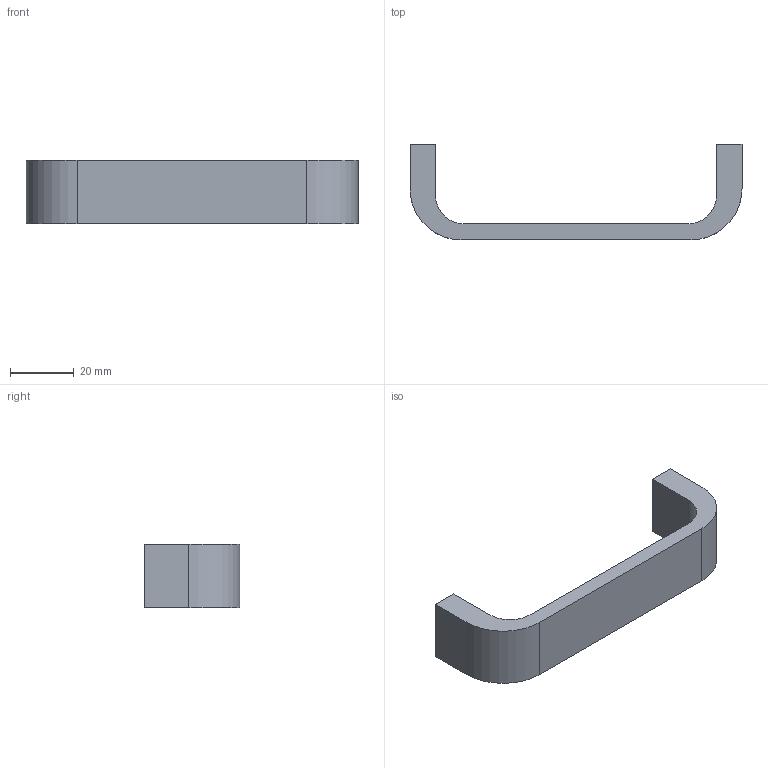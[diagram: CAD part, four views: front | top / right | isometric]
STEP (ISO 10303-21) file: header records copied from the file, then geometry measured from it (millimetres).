
FILE_DESCRIPTION( ( 'STEP AP214' ), '1' );
FILE_NAME( 'D:/Yug/2020/ProDecor_2020/QC/9266566.stp', '2020-06-01T11:41:33', ( '' ), ( '' ), ' ', 'PARTsolutions', ' ' );
FILE_SCHEMA( ( 'AUTOMOTIVE_DESIGN { 1 0 10303 214 1 1 1 1 }' ) );
Length unit declared in the file: millimetre
Products named in the file (1): _9266566
Bounding box: 104 x 30 x 20 mm (x, y, z)
Volume: 16765.1 mm3; surface area: 7783.9 mm2
Topology: 1 solids, 1 shells, 18 faces, 42 edges, 28 vertices
Faces by surface type: plane 12, cylinder 6
Full cylindrical faces by diameter (mm): 3.25 x2
Entity records: 668 total; most frequent: DIRECTION 90, CARTESIAN_POINT 87, ORIENTED_EDGE 80, EDGE_CURVE 40, AXIS2_PLACEMENT_3D 31, VERTEX_POINT 28, LINE 28, VECTOR 28
